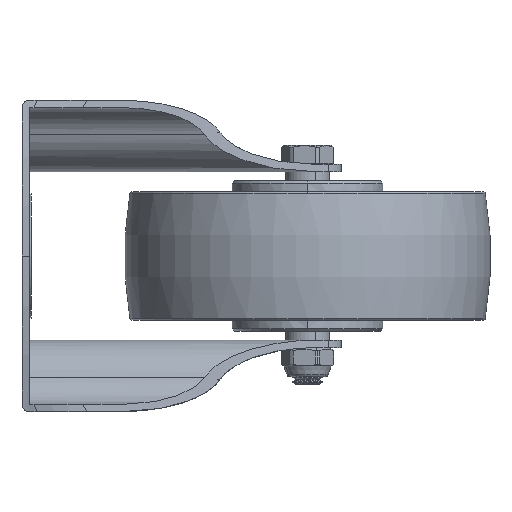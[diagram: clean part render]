
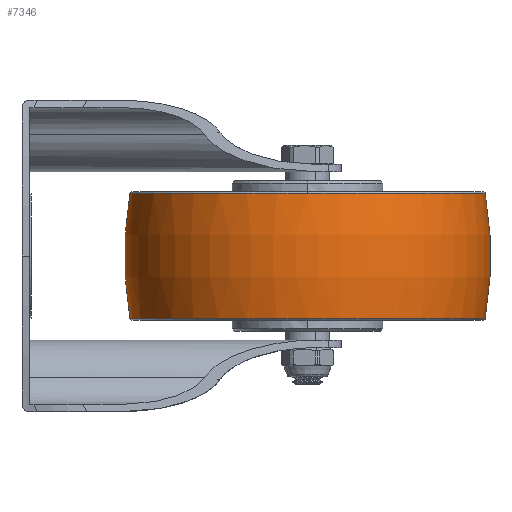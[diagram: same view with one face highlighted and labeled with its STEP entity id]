
A CAD part, left-side view. The second image highlights one B-rep face of the part: STEP entity #7346.
In plain terms, the highlighted toroidal (fillet/blend) face has major radius 50 mm and minor radius 100 mm.
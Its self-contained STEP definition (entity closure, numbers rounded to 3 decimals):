
#134 = ORIENTED_EDGE ( 'NONE', *, *, #1366, .T. ) ;
#145 = EDGE_CURVE ( 'NONE', #2045, #1704, #10586, .T. ) ;
#229 = CARTESIAN_POINT ( 'NONE',  ( 0., 0., 0. ) ) ;
#243 = AXIS2_PLACEMENT_3D ( 'NONE', #1987, #11158, #9160 ) ;
#716 = AXIS2_PLACEMENT_3D ( 'NONE', #229, #2867, #1053 ) ;
#1053 = DIRECTION ( 'NONE',  ( 0., 1., 0. ) ) ;
#1142 = DIRECTION ( 'NONE',  ( 0., 0., 1. ) ) ;
#1145 = CARTESIAN_POINT ( 'NONE',  ( 0., 48.53, -17.085 ) ) ;
#1366 = EDGE_CURVE ( 'NONE', #9373, #1910, #4184, .T. ) ;
#1704 = VERTEX_POINT ( 'NONE', #1145 ) ;
#1910 = VERTEX_POINT ( 'NONE', #4024 ) ;
#1987 = CARTESIAN_POINT ( 'NONE',  ( 0., 0., 17.085 ) ) ;
#2045 = VERTEX_POINT ( 'NONE', #3642 ) ;
#2147 = CIRCLE ( 'NONE', #8345, 48.53 ) ;
#2543 = AXIS2_PLACEMENT_3D ( 'NONE', #11571, #1142, #2903 ) ;
#2544 = DIRECTION ( 'NONE',  ( 0., 0., 1. ) ) ;
#2867 = DIRECTION ( 'NONE',  ( 0., 0., -1. ) ) ;
#2903 = DIRECTION ( 'NONE',  ( 1., 0., 0. ) ) ;
#3056 = CARTESIAN_POINT ( 'NONE',  ( 0., -48.53, 17.085 ) ) ;
#3097 = EDGE_CURVE ( 'NONE', #1910, #2045, #2147, .T. ) ;
#3228 = VERTEX_POINT ( 'NONE', #10551 ) ;
#3310 = EDGE_CURVE ( 'NONE', #3228, #3887, #5931, .T. ) ;
#3642 = CARTESIAN_POINT ( 'NONE',  ( 0., 48.53, 17.085 ) ) ;
#3887 = VERTEX_POINT ( 'NONE', #4800 ) ;
#4024 = CARTESIAN_POINT ( 'NONE',  ( -48.53, 0., 17.085 ) ) ;
#4184 = CIRCLE ( 'NONE', #243, 48.53 ) ;
#4191 = DIRECTION ( 'NONE',  ( 0., 0., 1. ) ) ;
#4194 = DIRECTION ( 'NONE',  ( -1., 0., 0. ) ) ;
#4245 = ORIENTED_EDGE ( 'NONE', *, *, #8919, .F. ) ;
#4402 = AXIS2_PLACEMENT_3D ( 'NONE', #4421, #2544, #11613 ) ;
#4421 = CARTESIAN_POINT ( 'NONE',  ( 0., 0., -17.085 ) ) ;
#4800 = CARTESIAN_POINT ( 'NONE',  ( 0., -48.53, -17.085 ) ) ;
#4904 = EDGE_LOOP ( 'NONE', ( #4245, #134, #6026, #7254, #4965, #10172 ) ) ;
#4965 = ORIENTED_EDGE ( 'NONE', *, *, #7613, .T. ) ;
#5085 = DIRECTION ( 'NONE',  ( 1., 0., 0. ) ) ;
#5869 = CARTESIAN_POINT ( 'NONE',  ( 0., 0., 17.085 ) ) ;
#5931 = CIRCLE ( 'NONE', #4402, 48.53 ) ;
#6026 = ORIENTED_EDGE ( 'NONE', *, *, #3097, .T. ) ;
#7254 = ORIENTED_EDGE ( 'NONE', *, *, #145, .T. ) ;
#7346 = ADVANCED_FACE ( 'NONE', ( #9168 ), #8426, .T. ) ;
#7608 = DIRECTION ( 'NONE',  ( -1., 0., 0. ) ) ;
#7613 = EDGE_CURVE ( 'NONE', #1704, #3228, #11376, .T. ) ;
#7759 = AXIS2_PLACEMENT_3D ( 'NONE', #9613, #7608, #4191 ) ;
#8341 = AXIS2_PLACEMENT_3D ( 'NONE', #9732, #5085, #8795 ) ;
#8345 = AXIS2_PLACEMENT_3D ( 'NONE', #5869, #9615, #4194 ) ;
#8426 = TOROIDAL_SURFACE ( 'NONE', #716, -50., 100. ) ;
#8795 = DIRECTION ( 'NONE',  ( 0., 1., 0. ) ) ;
#8919 = EDGE_CURVE ( 'NONE', #9373, #3887, #9279, .T. ) ;
#9160 = DIRECTION ( 'NONE',  ( -1., 0., 0. ) ) ;
#9168 = FACE_OUTER_BOUND ( 'NONE', #4904, .T. ) ;
#9279 = CIRCLE ( 'NONE', #8341, 100. ) ;
#9373 = VERTEX_POINT ( 'NONE', #3056 ) ;
#9613 = CARTESIAN_POINT ( 'NONE',  ( 0., -50., 0. ) ) ;
#9615 = DIRECTION ( 'NONE',  ( 0., 0., -1. ) ) ;
#9732 = CARTESIAN_POINT ( 'NONE',  ( 0., 50., 0. ) ) ;
#10172 = ORIENTED_EDGE ( 'NONE', *, *, #3310, .T. ) ;
#10551 = CARTESIAN_POINT ( 'NONE',  ( -48.53, 0., -17.085 ) ) ;
#10586 = CIRCLE ( 'NONE', #7759, 100. ) ;
#11158 = DIRECTION ( 'NONE',  ( 0., 0., -1. ) ) ;
#11376 = CIRCLE ( 'NONE', #2543, 48.53 ) ;
#11571 = CARTESIAN_POINT ( 'NONE',  ( 0., 0., -17.085 ) ) ;
#11613 = DIRECTION ( 'NONE',  ( 1., 0., 0. ) ) ;
